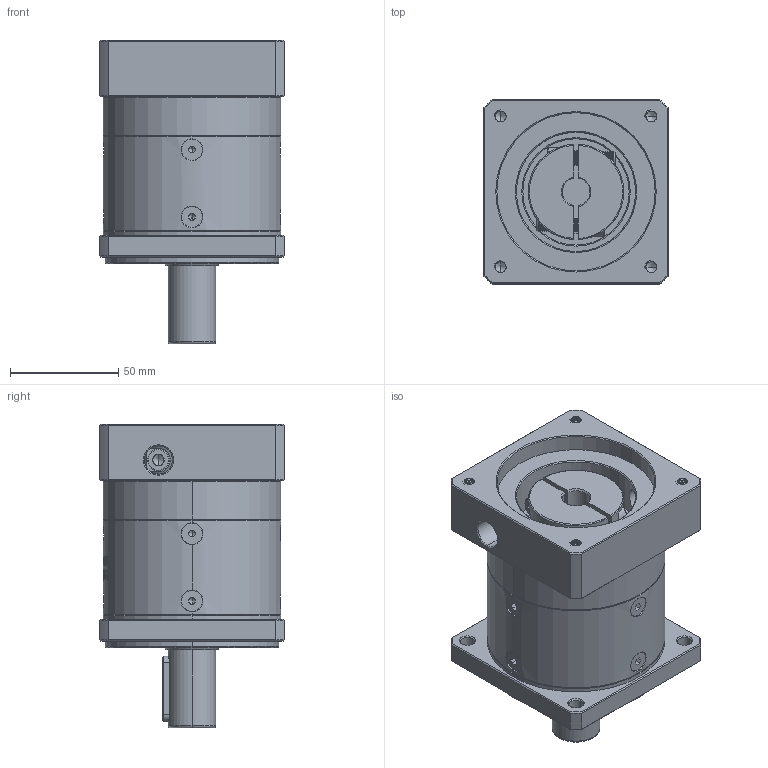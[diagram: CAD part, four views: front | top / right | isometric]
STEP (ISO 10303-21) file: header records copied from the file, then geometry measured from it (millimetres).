
FILE_DESCRIPTION (( 'STEP AP214' ), '1' );
FILE_NAME ('ZF080-D22-L1-P2-12.7-73-69.6X69.6-M6.step', '2023-08-19T05:30:45', ( '' ), ( '' ), 'SwSTEP 2.0', 'SolidWorks 2016', '' );
FILE_SCHEMA (( 'AUTOMOTIVE_DESIGN' ));
Length unit declared in the file: millimetre
Products named in the file (1): ZF080-D22-L1-P2-12.7-73-69.6X69.6-M6
Bounding box: 85 x 85 x 140 mm (x, y, z)
Volume: 547136.4 mm3; surface area: 89228.5 mm2
Topology: 13 solids, 13 shells, 2232 faces, 5845 edges, 3712 vertices
Faces by surface type: plane 1071, bspline 394, cylinder 390, cone 340, torus 37
Entity records: 119202 total; most frequent: CARTESIAN_POINT 44775, ORIENTED_EDGE 11630, DIRECTION 8627, EDGE_CURVE 5815, VERTEX_POINT 3712, LINE 3093, VECTOR 3093, AXIS2_PLACEMENT_3D 2767
